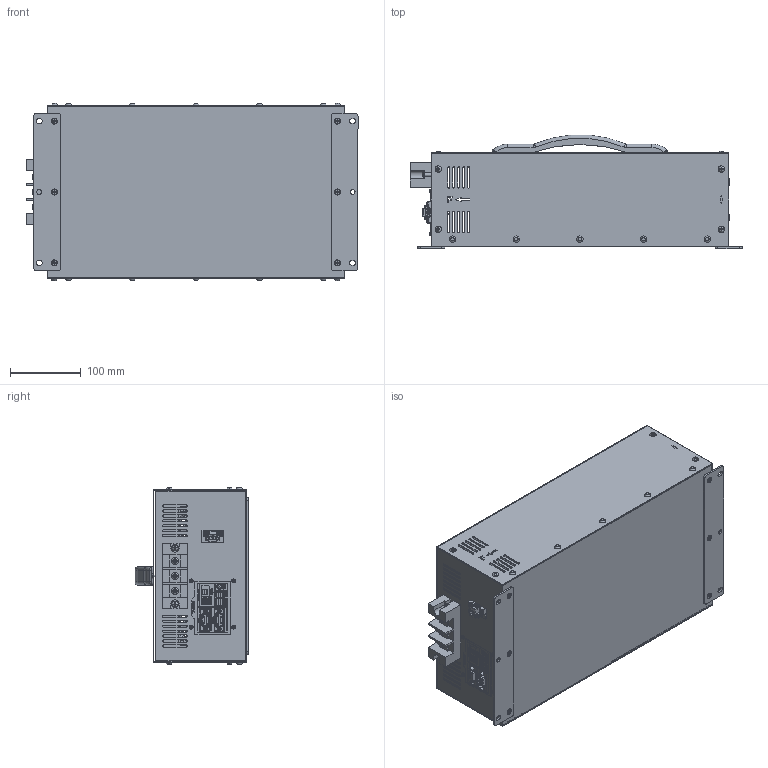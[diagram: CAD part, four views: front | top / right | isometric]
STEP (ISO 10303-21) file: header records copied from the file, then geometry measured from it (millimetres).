
FILE_DESCRIPTION(/* description */ (''),/* implementation_level */ '2;1');
FILE_NAME(/* name */ 'H:\04_배터리_전기종\고부하용 배터리 케이스_3D\[NEW] VX3COM_HANDLE1\홈페이지 최종 파일 (IGS,STEP)\VX3COM_HANDLE1.stp',/* time_stamp */ '2024-07-23T12:08:53+09:00',/* author */ ('jjang'),/* organization */ (''),/* preprocessor_version */ 'ST-DEVELOPER v18.1',/* originating_system */ 'Autodesk Inventor 2021',/* authorisation */ '');
FILE_SCHEMA (('AUTOMOTIVE_DESIGN { 1 0 10303 214 3 1 1 }'));
Products named in the file (1): VX3COM_2024.07.23_Shrinkwrap_1
Bounding box: 468 x 160.42 x 250.09 mm (x, y, z)
Volume: 789158.9 mm3; surface area: 917956.8 mm2
Topology: 7 solids, 7 shells, 4512 faces, 13473 edges, 9319 vertices
Faces by surface type: plane 2385, cylinder 1264, bspline 632, torus 139, cone 61, sphere 31
Full cylindrical faces by diameter (mm): 0.609 x1, 0.61 x27, 0.635 x9, 0.9 x6, 1.397 x9, 1.4 x1, 2.286 x9, 2.8 x8, 2.957 x4, 3 x2, 3.048 x4, 3.2 x4, 3.6 x10, 3.783 x2, 3.8 x8, 3.9 x2, 4 x31, 4.3 x12, 4.5 x8, 5 x17, 5.3 x20, 5.4 x2, 5.429 x2, 5.6 x4, 6 x2, 6.082 x1, 6.6 x2, 7.5 x6, 8 x1, 8.4 x12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
Entity records: 184014 total; most frequent: CARTESIAN_POINT 60131, ORIENTED_EDGE 26908, DIRECTION 22651, EDGE_CURVE 13454, VERTEX_POINT 9319, AXIS2_PLACEMENT_3D 7741, LINE 7169, VECTOR 7169
